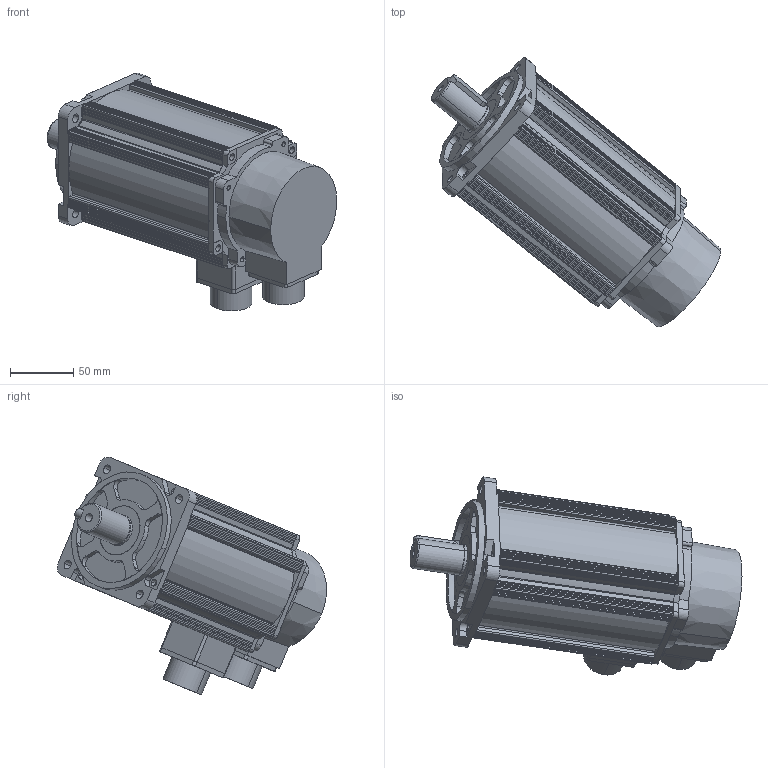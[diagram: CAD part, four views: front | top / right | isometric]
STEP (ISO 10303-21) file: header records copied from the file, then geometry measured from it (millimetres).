
FILE_DESCRIPTION (( 'STEP AP203' ), '1' );
FILE_NAME ('AS2MJ-10-2030C-H322.STEP', '2024-07-09T03:24:41', ( 'Admin' ), ( '' ), 'SwSTEP 2.0', 'SolidWorks 2018', '' );
FILE_SCHEMA (( 'CONFIG_CONTROL_DESIGN' ));
Length unit declared in the file: millimetre
Products named in the file (1): AS2MJ-10-2030C-H322
Bounding box: 228.25 x 212.3 x 187.51 mm (x, y, z)
Volume: 519508 mm3; surface area: 251290.3 mm2
Topology: 10 solids, 10 shells, 743 faces, 2086 edges, 1335 vertices
Faces by surface type: plane 365, cylinder 322, bspline 35, cone 21
Entity records: 24677 total; most frequent: CARTESIAN_POINT 5220, DIRECTION 4084, ORIENTED_EDGE 4036, EDGE_CURVE 2018, AXIS2_PLACEMENT_3D 1383, VERTEX_POINT 1335, VECTOR 1318, LINE 1318
